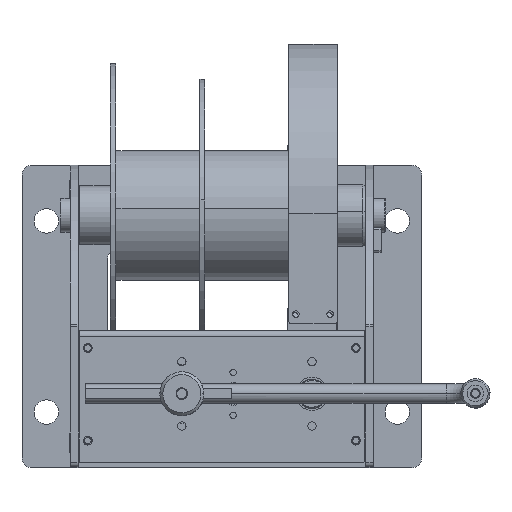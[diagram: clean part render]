
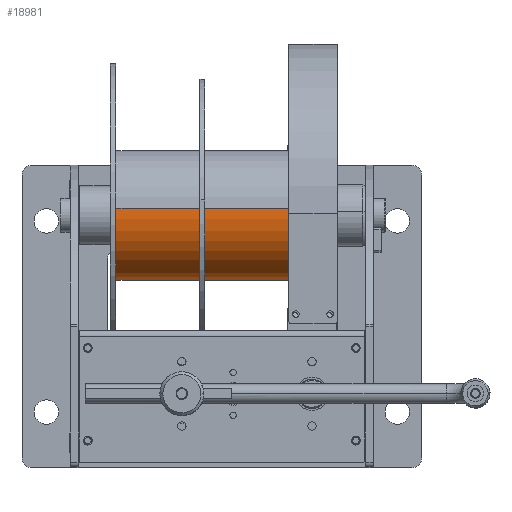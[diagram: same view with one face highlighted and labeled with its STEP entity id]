
A CAD part, top view. The second image highlights one B-rep face of the part: STEP entity #18981.
In plain terms, the highlighted cylindrical face has radius 66.5 mm (diameter 133 mm), a partial arc.
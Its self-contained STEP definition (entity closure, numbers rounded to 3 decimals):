
#2862 = DIRECTION ( 'NONE',  ( 1., 0., 0. ) ) ;
#3209 = VERTEX_POINT ( 'NONE', #15857 ) ;
#4387 = VERTEX_POINT ( 'NONE', #65192 ) ;
#8555 = FACE_OUTER_BOUND ( 'NONE', #64801, .T. ) ;
#8606 = DIRECTION ( 'NONE',  ( 0., 0., -1. ) ) ;
#9818 = CARTESIAN_POINT ( 'NONE',  ( 0., 0., 101.5 ) ) ;
#11445 = LINE ( 'NONE', #29897, #23963 ) ;
#13791 = CIRCLE ( 'NONE', #28817, 66.5 ) ;
#15857 = CARTESIAN_POINT ( 'NONE',  ( 66.5, 0., 101.5 ) ) ;
#16866 = AXIS2_PLACEMENT_3D ( 'NONE', #67085, #34991, #2862 ) ;
#18981 = ADVANCED_FACE ( 'NONE', ( #8555 ), #49624, .T. ) ;
#19514 = CARTESIAN_POINT ( 'NONE',  ( 0., 0., -101.5 ) ) ;
#20122 = ORIENTED_EDGE ( 'NONE', *, *, #29484, .T. ) ;
#20688 = CARTESIAN_POINT ( 'NONE',  ( 66.5, 0., -101.5 ) ) ;
#23963 = VECTOR ( 'NONE', #8606, 1000. ) ;
#24892 = DIRECTION ( 'NONE',  ( 1., 0., 0. ) ) ;
#25884 = DIRECTION ( 'NONE',  ( 0., 0., -1. ) ) ;
#27731 = EDGE_CURVE ( 'NONE', #3209, #29873, #11445, .T. ) ;
#28817 = AXIS2_PLACEMENT_3D ( 'NONE', #19514, #57015, #24892 ) ;
#29484 = EDGE_CURVE ( 'NONE', #65031, #29873, #13791, .T. ) ;
#29873 = VERTEX_POINT ( 'NONE', #20688 ) ;
#29897 = CARTESIAN_POINT ( 'NONE',  ( 66.5, 0., 101.5 ) ) ;
#30455 = VECTOR ( 'NONE', #25884, 1000. ) ;
#31770 = EDGE_CURVE ( 'NONE', #4387, #3209, #57178, .T. ) ;
#34991 = DIRECTION ( 'NONE',  ( 0., 0., 1. ) ) ;
#44702 = LINE ( 'NONE', #47240, #30455 ) ;
#47240 = CARTESIAN_POINT ( 'NONE',  ( -66.5, 0., 101.5 ) ) ;
#49624 = CYLINDRICAL_SURFACE ( 'NONE', #54788, 66.5 ) ;
#54788 = AXIS2_PLACEMENT_3D ( 'NONE', #9818, #68824, #63463 ) ;
#55024 = ORIENTED_EDGE ( 'NONE', *, *, #31770, .F. ) ;
#55831 = ORIENTED_EDGE ( 'NONE', *, *, #27731, .F. ) ;
#56920 = EDGE_CURVE ( 'NONE', #4387, #65031, #44702, .T. ) ;
#57015 = DIRECTION ( 'NONE',  ( 0., 0., 1. ) ) ;
#57178 = CIRCLE ( 'NONE', #16866, 66.5 ) ;
#63463 = DIRECTION ( 'NONE',  ( -1., 0., 0. ) ) ;
#64801 = EDGE_LOOP ( 'NONE', ( #55831, #55024, #68378, #20122 ) ) ;
#65031 = VERTEX_POINT ( 'NONE', #68665 ) ;
#65192 = CARTESIAN_POINT ( 'NONE',  ( -66.5, 0., 101.5 ) ) ;
#67085 = CARTESIAN_POINT ( 'NONE',  ( 0., 0., 101.5 ) ) ;
#68378 = ORIENTED_EDGE ( 'NONE', *, *, #56920, .T. ) ;
#68665 = CARTESIAN_POINT ( 'NONE',  ( -66.5, 0., -101.5 ) ) ;
#68824 = DIRECTION ( 'NONE',  ( 0., 0., -1. ) ) ;
